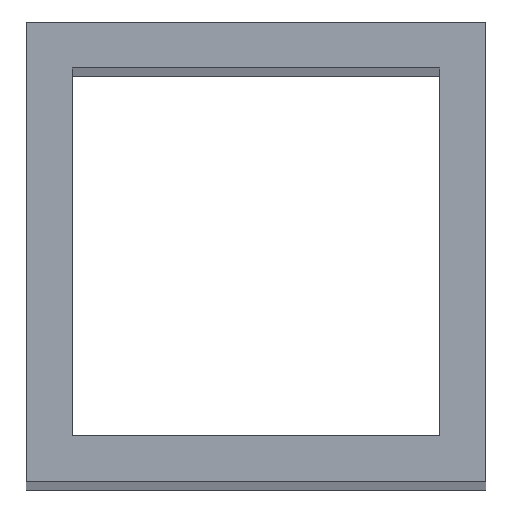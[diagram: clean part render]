
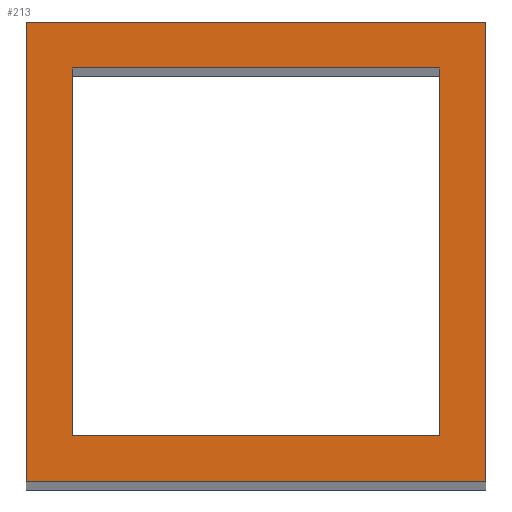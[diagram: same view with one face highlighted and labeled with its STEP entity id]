
A CAD part, top view. The second image highlights one B-rep face of the part: STEP entity #213.
In plain terms, the highlighted planar face has unit normal (0, 0, 1).
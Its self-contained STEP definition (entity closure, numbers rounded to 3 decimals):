
#24 = VERTEX_POINT('',#25);
#25 = CARTESIAN_POINT('',(149.,245.,303.));
#32 = PLANE('',#33);
#33 = AXIS2_PLACEMENT_3D('',#34,#35,#36);
#34 = CARTESIAN_POINT('',(149.,245.,4.));
#35 = DIRECTION('',(1.,0.,-0.));
#36 = DIRECTION('',(0.,0.,1.));
#44 = PLANE('',#45);
#45 = AXIS2_PLACEMENT_3D('',#46,#47,#48);
#46 = CARTESIAN_POINT('',(149.,245.,4.));
#47 = DIRECTION('',(-0.,1.,0.));
#48 = DIRECTION('',(0.,0.,1.));
#85 = VERTEX_POINT('',#86);
#86 = CARTESIAN_POINT('',(149.,275.,303.));
#100 = PLANE('',#101);
#101 = AXIS2_PLACEMENT_3D('',#102,#103,#104);
#102 = CARTESIAN_POINT('',(149.,275.,4.));
#103 = DIRECTION('',(-0.,1.,0.));
#104 = DIRECTION('',(0.,0.,1.));
#112 = EDGE_CURVE('',#24,#85,#113,.T.);
#113 = SURFACE_CURVE('',#114,(#118,#125),.PCURVE_S1.);
#114 = LINE('',#115,#116);
#115 = CARTESIAN_POINT('',(149.,245.,303.));
#116 = VECTOR('',#117,1.);
#117 = DIRECTION('',(-0.,1.,0.));
#118 = PCURVE('',#32,#119);
#119 = DEFINITIONAL_REPRESENTATION('',(#120),#124);
#120 = LINE('',#121,#122);
#121 = CARTESIAN_POINT('',(299.,0.));
#122 = VECTOR('',#123,1.);
#123 = DIRECTION('',(0.,-1.));
#124 = ( GEOMETRIC_REPRESENTATION_CONTEXT(2) 
PARAMETRIC_REPRESENTATION_CONTEXT() REPRESENTATION_CONTEXT('2D SPACE',''
  ) );
#125 = PCURVE('',#126,#131);
#126 = PLANE('',#127);
#127 = AXIS2_PLACEMENT_3D('',#128,#129,#130);
#128 = CARTESIAN_POINT('',(149.,245.,303.));
#129 = DIRECTION('',(0.,0.,1.));
#130 = DIRECTION('',(1.,0.,-0.));
#131 = DEFINITIONAL_REPRESENTATION('',(#132),#136);
#132 = LINE('',#133,#134);
#133 = CARTESIAN_POINT('',(0.,0.));
#134 = VECTOR('',#135,1.);
#135 = DIRECTION('',(0.,1.));
#136 = ( GEOMETRIC_REPRESENTATION_CONTEXT(2) 
PARAMETRIC_REPRESENTATION_CONTEXT() REPRESENTATION_CONTEXT('2D SPACE',''
  ) );
#165 = EDGE_CURVE('',#24,#166,#168,.T.);
#166 = VERTEX_POINT('',#167);
#167 = CARTESIAN_POINT('',(179.,245.,303.));
#168 = SURFACE_CURVE('',#169,(#173,#180),.PCURVE_S1.);
#169 = LINE('',#170,#171);
#170 = CARTESIAN_POINT('',(149.,245.,303.));
#171 = VECTOR('',#172,1.);
#172 = DIRECTION('',(1.,0.,-0.));
#173 = PCURVE('',#44,#174);
#174 = DEFINITIONAL_REPRESENTATION('',(#175),#179);
#175 = LINE('',#176,#177);
#176 = CARTESIAN_POINT('',(299.,0.));
#177 = VECTOR('',#178,1.);
#178 = DIRECTION('',(0.,1.));
#179 = ( GEOMETRIC_REPRESENTATION_CONTEXT(2) 
PARAMETRIC_REPRESENTATION_CONTEXT() REPRESENTATION_CONTEXT('2D SPACE',''
  ) );
#180 = PCURVE('',#126,#181);
#181 = DEFINITIONAL_REPRESENTATION('',(#182),#186);
#182 = LINE('',#183,#184);
#183 = CARTESIAN_POINT('',(0.,0.));
#184 = VECTOR('',#185,1.);
#185 = DIRECTION('',(1.,0.));
#186 = ( GEOMETRIC_REPRESENTATION_CONTEXT(2) 
PARAMETRIC_REPRESENTATION_CONTEXT() REPRESENTATION_CONTEXT('2D SPACE',''
  ) );
#202 = PLANE('',#203);
#203 = AXIS2_PLACEMENT_3D('',#204,#205,#206);
#204 = CARTESIAN_POINT('',(179.,245.,4.));
#205 = DIRECTION('',(1.,0.,-0.));
#206 = DIRECTION('',(0.,0.,1.));
#213 = ADVANCED_FACE('',(#214,#262),#126,.T.);
#214 = FACE_BOUND('',#215,.T.);
#215 = EDGE_LOOP('',(#216,#217,#218,#241));
#216 = ORIENTED_EDGE('',*,*,#112,.F.);
#217 = ORIENTED_EDGE('',*,*,#165,.T.);
#218 = ORIENTED_EDGE('',*,*,#219,.T.);
#219 = EDGE_CURVE('',#166,#220,#222,.T.);
#220 = VERTEX_POINT('',#221);
#221 = CARTESIAN_POINT('',(179.,275.,303.));
#222 = SURFACE_CURVE('',#223,(#227,#234),.PCURVE_S1.);
#223 = LINE('',#224,#225);
#224 = CARTESIAN_POINT('',(179.,245.,303.));
#225 = VECTOR('',#226,1.);
#226 = DIRECTION('',(-0.,1.,0.));
#227 = PCURVE('',#126,#228);
#228 = DEFINITIONAL_REPRESENTATION('',(#229),#233);
#229 = LINE('',#230,#231);
#230 = CARTESIAN_POINT('',(30.,0.));
#231 = VECTOR('',#232,1.);
#232 = DIRECTION('',(0.,1.));
#233 = ( GEOMETRIC_REPRESENTATION_CONTEXT(2) 
PARAMETRIC_REPRESENTATION_CONTEXT() REPRESENTATION_CONTEXT('2D SPACE',''
  ) );
#234 = PCURVE('',#202,#235);
#235 = DEFINITIONAL_REPRESENTATION('',(#236),#240);
#236 = LINE('',#237,#238);
#237 = CARTESIAN_POINT('',(299.,0.));
#238 = VECTOR('',#239,1.);
#239 = DIRECTION('',(0.,-1.));
#240 = ( GEOMETRIC_REPRESENTATION_CONTEXT(2) 
PARAMETRIC_REPRESENTATION_CONTEXT() REPRESENTATION_CONTEXT('2D SPACE',''
  ) );
#241 = ORIENTED_EDGE('',*,*,#242,.F.);
#242 = EDGE_CURVE('',#85,#220,#243,.T.);
#243 = SURFACE_CURVE('',#244,(#248,#255),.PCURVE_S1.);
#244 = LINE('',#245,#246);
#245 = CARTESIAN_POINT('',(149.,275.,303.));
#246 = VECTOR('',#247,1.);
#247 = DIRECTION('',(1.,0.,-0.));
#248 = PCURVE('',#126,#249);
#249 = DEFINITIONAL_REPRESENTATION('',(#250),#254);
#250 = LINE('',#251,#252);
#251 = CARTESIAN_POINT('',(0.,30.));
#252 = VECTOR('',#253,1.);
#253 = DIRECTION('',(1.,0.));
#254 = ( GEOMETRIC_REPRESENTATION_CONTEXT(2) 
PARAMETRIC_REPRESENTATION_CONTEXT() REPRESENTATION_CONTEXT('2D SPACE',''
  ) );
#255 = PCURVE('',#100,#256);
#256 = DEFINITIONAL_REPRESENTATION('',(#257),#261);
#257 = LINE('',#258,#259);
#258 = CARTESIAN_POINT('',(299.,0.));
#259 = VECTOR('',#260,1.);
#260 = DIRECTION('',(0.,1.));
#261 = ( GEOMETRIC_REPRESENTATION_CONTEXT(2) 
PARAMETRIC_REPRESENTATION_CONTEXT() REPRESENTATION_CONTEXT('2D SPACE',''
  ) );
#262 = FACE_BOUND('',#263,.T.);
#263 = EDGE_LOOP('',(#264,#292,#318,#344));
#264 = ORIENTED_EDGE('',*,*,#265,.T.);
#265 = EDGE_CURVE('',#266,#268,#270,.T.);
#266 = VERTEX_POINT('',#267);
#267 = CARTESIAN_POINT('',(176.,248.,303.));
#268 = VERTEX_POINT('',#269);
#269 = CARTESIAN_POINT('',(152.,248.,303.));
#270 = SURFACE_CURVE('',#271,(#275,#281),.PCURVE_S1.);
#271 = LINE('',#272,#273);
#272 = CARTESIAN_POINT('',(150.5,248.,303.));
#273 = VECTOR('',#274,1.);
#274 = DIRECTION('',(-1.,-0.,0.));
#275 = PCURVE('',#126,#276);
#276 = DEFINITIONAL_REPRESENTATION('',(#277),#280);
#277 = B_SPLINE_CURVE_WITH_KNOTS('',1,(#278,#279),.UNSPECIFIED.,.F.,.F.,
  (2,2),(-25.5,-1.5),.PIECEWISE_BEZIER_KNOTS.);
#278 = CARTESIAN_POINT('',(27.,3.));
#279 = CARTESIAN_POINT('',(3.,3.));
#280 = ( GEOMETRIC_REPRESENTATION_CONTEXT(2) 
PARAMETRIC_REPRESENTATION_CONTEXT() REPRESENTATION_CONTEXT('2D SPACE',''
  ) );
#281 = PCURVE('',#282,#287);
#282 = PLANE('',#283);
#283 = AXIS2_PLACEMENT_3D('',#284,#285,#286);
#284 = CARTESIAN_POINT('',(152.,248.,3.));
#285 = DIRECTION('',(-0.,1.,0.));
#286 = DIRECTION('',(0.,0.,1.));
#287 = DEFINITIONAL_REPRESENTATION('',(#288),#291);
#288 = B_SPLINE_CURVE_WITH_KNOTS('',1,(#289,#290),.UNSPECIFIED.,.F.,.F.,
  (2,2),(-25.5,-1.5),.PIECEWISE_BEZIER_KNOTS.);
#289 = CARTESIAN_POINT('',(300.,24.));
#290 = CARTESIAN_POINT('',(300.,0.));
#291 = ( GEOMETRIC_REPRESENTATION_CONTEXT(2) 
PARAMETRIC_REPRESENTATION_CONTEXT() REPRESENTATION_CONTEXT('2D SPACE',''
  ) );
#292 = ORIENTED_EDGE('',*,*,#293,.T.);
#293 = EDGE_CURVE('',#268,#294,#296,.T.);
#294 = VERTEX_POINT('',#295);
#295 = CARTESIAN_POINT('',(152.,272.,303.));
#296 = SURFACE_CURVE('',#297,(#301,#307),.PCURVE_S1.);
#297 = LINE('',#298,#299);
#298 = CARTESIAN_POINT('',(152.,246.5,303.));
#299 = VECTOR('',#300,1.);
#300 = DIRECTION('',(-0.,1.,0.));
#301 = PCURVE('',#126,#302);
#302 = DEFINITIONAL_REPRESENTATION('',(#303),#306);
#303 = B_SPLINE_CURVE_WITH_KNOTS('',1,(#304,#305),.UNSPECIFIED.,.F.,.F.,
  (2,2),(1.5,25.5),.PIECEWISE_BEZIER_KNOTS.);
#304 = CARTESIAN_POINT('',(3.,3.));
#305 = CARTESIAN_POINT('',(3.,27.));
#306 = ( GEOMETRIC_REPRESENTATION_CONTEXT(2) 
PARAMETRIC_REPRESENTATION_CONTEXT() REPRESENTATION_CONTEXT('2D SPACE',''
  ) );
#307 = PCURVE('',#308,#313);
#308 = PLANE('',#309);
#309 = AXIS2_PLACEMENT_3D('',#310,#311,#312);
#310 = CARTESIAN_POINT('',(152.,248.,3.));
#311 = DIRECTION('',(1.,0.,-0.));
#312 = DIRECTION('',(0.,0.,1.));
#313 = DEFINITIONAL_REPRESENTATION('',(#314),#317);
#314 = B_SPLINE_CURVE_WITH_KNOTS('',1,(#315,#316),.UNSPECIFIED.,.F.,.F.,
  (2,2),(1.5,25.5),.PIECEWISE_BEZIER_KNOTS.);
#315 = CARTESIAN_POINT('',(300.,0.));
#316 = CARTESIAN_POINT('',(300.,-24.));
#317 = ( GEOMETRIC_REPRESENTATION_CONTEXT(2) 
PARAMETRIC_REPRESENTATION_CONTEXT() REPRESENTATION_CONTEXT('2D SPACE',''
  ) );
#318 = ORIENTED_EDGE('',*,*,#319,.F.);
#319 = EDGE_CURVE('',#320,#294,#322,.T.);
#320 = VERTEX_POINT('',#321);
#321 = CARTESIAN_POINT('',(176.,272.,303.));
#322 = SURFACE_CURVE('',#323,(#327,#333),.PCURVE_S1.);
#323 = LINE('',#324,#325);
#324 = CARTESIAN_POINT('',(150.5,272.,303.));
#325 = VECTOR('',#326,1.);
#326 = DIRECTION('',(-1.,-0.,0.));
#327 = PCURVE('',#126,#328);
#328 = DEFINITIONAL_REPRESENTATION('',(#329),#332);
#329 = B_SPLINE_CURVE_WITH_KNOTS('',1,(#330,#331),.UNSPECIFIED.,.F.,.F.,
  (2,2),(-25.5,-1.5),.PIECEWISE_BEZIER_KNOTS.);
#330 = CARTESIAN_POINT('',(27.,27.));
#331 = CARTESIAN_POINT('',(3.,27.));
#332 = ( GEOMETRIC_REPRESENTATION_CONTEXT(2) 
PARAMETRIC_REPRESENTATION_CONTEXT() REPRESENTATION_CONTEXT('2D SPACE',''
  ) );
#333 = PCURVE('',#334,#339);
#334 = PLANE('',#335);
#335 = AXIS2_PLACEMENT_3D('',#336,#337,#338);
#336 = CARTESIAN_POINT('',(152.,272.,3.));
#337 = DIRECTION('',(-0.,1.,0.));
#338 = DIRECTION('',(0.,0.,1.));
#339 = DEFINITIONAL_REPRESENTATION('',(#340),#343);
#340 = B_SPLINE_CURVE_WITH_KNOTS('',1,(#341,#342),.UNSPECIFIED.,.F.,.F.,
  (2,2),(-25.5,-1.5),.PIECEWISE_BEZIER_KNOTS.);
#341 = CARTESIAN_POINT('',(300.,24.));
#342 = CARTESIAN_POINT('',(300.,0.));
#343 = ( GEOMETRIC_REPRESENTATION_CONTEXT(2) 
PARAMETRIC_REPRESENTATION_CONTEXT() REPRESENTATION_CONTEXT('2D SPACE',''
  ) );
#344 = ORIENTED_EDGE('',*,*,#345,.F.);
#345 = EDGE_CURVE('',#266,#320,#346,.T.);
#346 = SURFACE_CURVE('',#347,(#351,#357),.PCURVE_S1.);
#347 = LINE('',#348,#349);
#348 = CARTESIAN_POINT('',(176.,246.5,303.));
#349 = VECTOR('',#350,1.);
#350 = DIRECTION('',(-0.,1.,0.));
#351 = PCURVE('',#126,#352);
#352 = DEFINITIONAL_REPRESENTATION('',(#353),#356);
#353 = B_SPLINE_CURVE_WITH_KNOTS('',1,(#354,#355),.UNSPECIFIED.,.F.,.F.,
  (2,2),(1.5,25.5),.PIECEWISE_BEZIER_KNOTS.);
#354 = CARTESIAN_POINT('',(27.,3.));
#355 = CARTESIAN_POINT('',(27.,27.));
#356 = ( GEOMETRIC_REPRESENTATION_CONTEXT(2) 
PARAMETRIC_REPRESENTATION_CONTEXT() REPRESENTATION_CONTEXT('2D SPACE',''
  ) );
#357 = PCURVE('',#358,#363);
#358 = PLANE('',#359);
#359 = AXIS2_PLACEMENT_3D('',#360,#361,#362);
#360 = CARTESIAN_POINT('',(176.,248.,3.));
#361 = DIRECTION('',(1.,0.,-0.));
#362 = DIRECTION('',(0.,0.,1.));
#363 = DEFINITIONAL_REPRESENTATION('',(#364),#367);
#364 = B_SPLINE_CURVE_WITH_KNOTS('',1,(#365,#366),.UNSPECIFIED.,.F.,.F.,
  (2,2),(1.5,25.5),.PIECEWISE_BEZIER_KNOTS.);
#365 = CARTESIAN_POINT('',(300.,0.));
#366 = CARTESIAN_POINT('',(300.,-24.));
#367 = ( GEOMETRIC_REPRESENTATION_CONTEXT(2) 
PARAMETRIC_REPRESENTATION_CONTEXT() REPRESENTATION_CONTEXT('2D SPACE',''
  ) );
